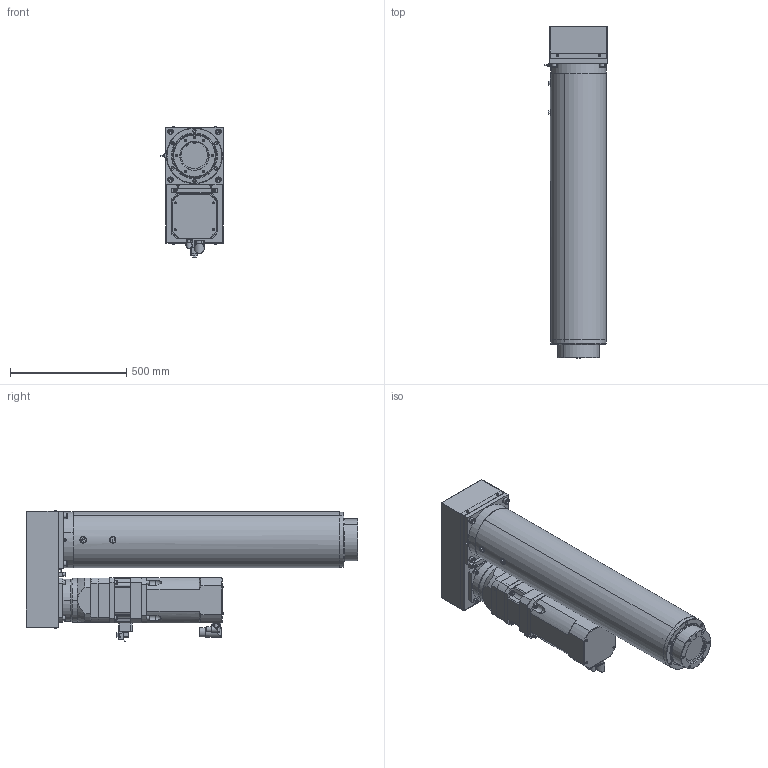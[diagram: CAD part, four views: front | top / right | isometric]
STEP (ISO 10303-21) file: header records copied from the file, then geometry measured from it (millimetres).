
FILE_DESCRIPTION (( 'STEP AP203' ), '1' );
FILE_NAME ('LN5P2000-075-010SG.STEP', '2019-01-31T13:47:11', ( '' ), ( '' ), 'SwSTEP 2.0', 'SolidWorks 2016', '' );
FILE_SCHEMA (( 'CONFIG_CONTROL_DESIGN' ));
Length unit declared in the file: millimetre
Products named in the file (1): LN5P2000-075-010SG
Bounding box: 267.25 x 1426.5 x 565.64 mm (x, y, z)
Surface area: 5221935.6 mm2 (no closed solid volume)
Topology: 0 solids, 55 shells, 1946 faces, 4569 edges, 2768 vertices
Faces by surface type: plane 848, cylinder 716, cone 290, torus 82, bspline 10
Entity records: 56440 total; most frequent: CARTESIAN_POINT 11368, DIRECTION 9964, ORIENTED_EDGE 8770, EDGE_CURVE 4391, AXIS2_PLACEMENT_3D 3788, VERTEX_POINT 2768, LINE 2388, VECTOR 2388
